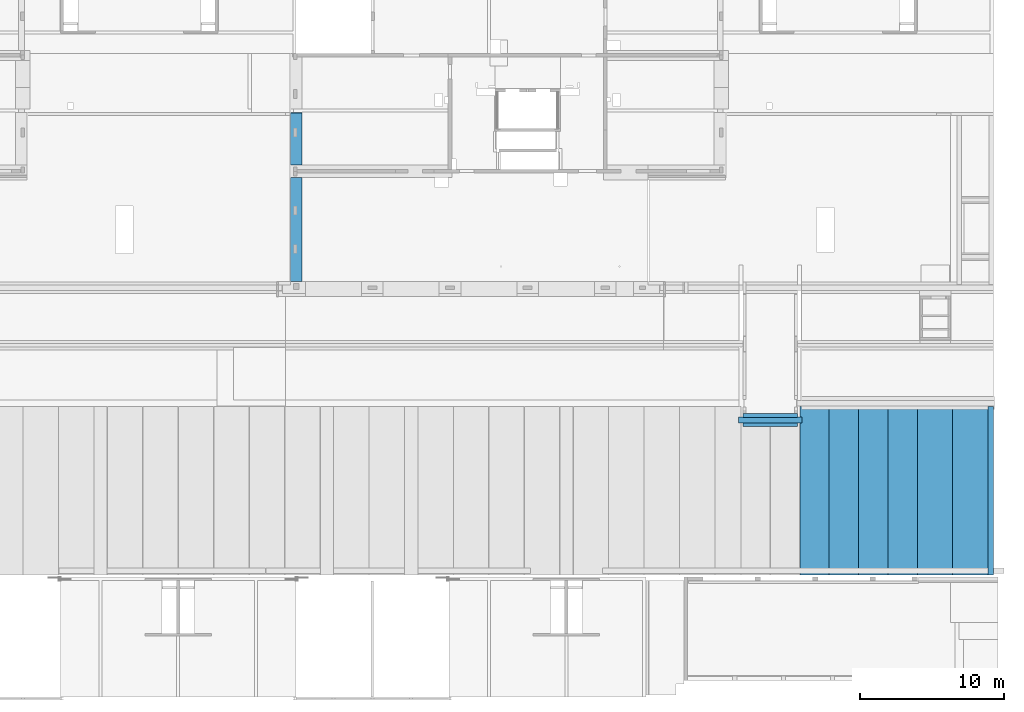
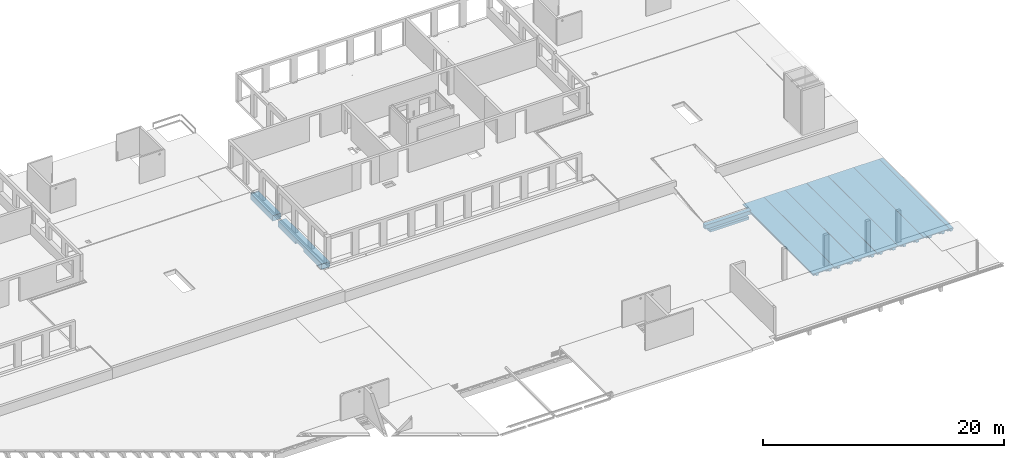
# One storey, part 31 of 36: 9 beams.
"""IFC2X3 building model written with IfcOpenShell, lengths in millimetres."""

from ifc_helpers import new_model, entity, si_unit, converted_unit, derived_unit, direction, frame, origin, place, context, subcontext, project, spatial, faceted_brep, source, transform, mapped, material, type_object, type_shapes, element, save


model = new_model("IFC2X3")

# Units and contexts
model_context = context("Model", 3, precision=0.01, world=origin(), true_north=direction((6.12303176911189e-17, 1.0)))
body_context = subcontext(model_context, "Body", "Model", "MODEL_VIEW")
ifc_project = project(units=[si_unit("LENGTHUNIT", "METRE", prefix="MILLI"), si_unit("AREAUNIT", "SQUARE_METRE"), si_unit("VOLUMEUNIT", "CUBIC_METRE"), converted_unit("PLANEANGLEUNIT", "DEGREE", entity("IfcRatioMeasure", 0.0174532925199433), si_unit("PLANEANGLEUNIT", "RADIAN"), dimensions=[0, 0, 0, 0, 0, 0, 0]), si_unit("MASSUNIT", "GRAM", prefix="KILO"), derived_unit("MASSDENSITYUNIT", [(si_unit("MASSUNIT", "GRAM", prefix="KILO"), 1), (si_unit("LENGTHUNIT", "METRE"), -3)]), si_unit("TIMEUNIT", "SECOND"), si_unit("FREQUENCYUNIT", "HERTZ"), si_unit("THERMODYNAMICTEMPERATUREUNIT", "DEGREE_CELSIUS"), derived_unit("THERMALTRANSMITTANCEUNIT", [(si_unit("MASSUNIT", "GRAM", prefix="KILO"), 1), (si_unit("THERMODYNAMICTEMPERATUREUNIT", "KELVIN"), -1), (si_unit("TIMEUNIT", "SECOND"), -3)]), derived_unit("VOLUMETRICFLOWRATEUNIT", [(si_unit("LENGTHUNIT", "METRE"), 3), (si_unit("TIMEUNIT", "SECOND"), -1)]), si_unit("ELECTRICCURRENTUNIT", "AMPERE"), si_unit("ELECTRICVOLTAGEUNIT", "VOLT"), si_unit("POWERUNIT", "WATT"), si_unit("FORCEUNIT", "NEWTON", prefix="KILO"), si_unit("ILLUMINANCEUNIT", "LUX"), si_unit("LUMINOUSFLUXUNIT", "LUMEN"), si_unit("LUMINOUSINTENSITYUNIT", "CANDELA"), derived_unit("USERDEFINED", [(si_unit("MASSUNIT", "GRAM", prefix="KILO"), -1), (si_unit("LENGTHUNIT", "METRE"), -2), (si_unit("TIMEUNIT", "SECOND"), 3), (si_unit("LUMINOUSFLUXUNIT", "LUMEN"), 1)]), derived_unit("LINEARVELOCITYUNIT", [(si_unit("LENGTHUNIT", "METRE"), 1), (si_unit("TIMEUNIT", "SECOND"), -1)]), si_unit("PRESSUREUNIT", "PASCAL"), derived_unit("USERDEFINED", [(si_unit("LENGTHUNIT", "METRE"), -2), (si_unit("MASSUNIT", "GRAM", prefix="KILO"), 1), (si_unit("TIMEUNIT", "SECOND"), -2)])], contexts=[model_context])

# Site, building, storey
site_placement = place(None, origin())
site = spatial("IfcSite", under=ifc_project, at=site_placement, Name="Default", CompositionType="ELEMENT")
building_placement = place(site_placement, origin())
building = spatial("IfcBuilding", under=site, at=building_placement, Name="niet gebruiken", CompositionType="ELEMENT")
storey_placement = place(building_placement, frame((0.0, 0.0, 12600.0)))
storey = spatial("IfcBuildingStorey", under=building, at=storey_placement, Name="04 vierde verdieping", CompositionType="ELEMENT", Elevation=12600.0)

# Beams
ifc_material_1 = material(Name="NLRS_f2_beton prefab")
beam_type_1 = type_object("IfcBeamType", Name="NLRS_28.11_SF_WPB_prefabbeton balk dubbele sponning_gen:900x660/250x410/250x410", PredefinedType="BEAM")
beam_1_placement = place(storey_placement, frame((106475.0, 19226.0, -2020.0)))
element("IfcBeam", 1, at=beam_1_placement, inside=storey, type_object=beam_type_1, material=ifc_material_1, Name="NLRS_28.11_SF_WPB_prefabbeton balk dubbele sponning_gen:900x660/250x410/250x410", ObjectType="NLRS_28.11_SF_WPB_prefabbeton balk dubbele sponning_gen:900x660/250x410/250x410", context=body_context, shape_type="Brep", body=[
    faceted_brep([(0.0, 250.0, 660.0), (0.0, 650.0, 660.0), (0.0, 650.0, 270.0), (0.0, 250.0, 270.0), (320.0, 0.0, 250.0), (320.0, 0.0, 0.0), (4080.0, 0.0, 0.0), (4080.0, 0.0, 250.0), (4400.0, 650.0, 660.0), (4400.0, 250.0, 660.0), (4400.0, 250.0, 270.0), (4400.0, 650.0, 270.0), (4080.0, 650.0, 660.0), (4080.0, 626.215262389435, 660.0), (4350.0, 626.215262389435, 660.0), (4350.0, 620.0, 660.0), (50.0, 620.0, 660.0), (50.0, 626.21526238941, 660.0), (320.0, 626.215262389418, 660.0), (320.0, 650.0, 660.0), (320.0, 650.0, 270.0), (320.0, 250.0, 270.0), (320.0, 250.0, 250.0), (4080.0, 250.0, 250.0), (4080.0, 250.0, 270.0), (320.0, 900.0, 0.0), (4080.0, 900.0, 0.0), (4080.0, 620.0, 659.224414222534), (4350.0, 620.0, 659.224414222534), (4080.0, 620.0, 659.236306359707), (4080.0, 620.0, 270.0), (4080.0, 620.095299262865, 256.133963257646), (320.0, 620.0, 256.133963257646), (320.0, 620.095299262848, 270.0), (320.0, 620.0, 659.224414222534), (50.0, 620.0, 659.224414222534), (320.0, 620.095299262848, 256.133963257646), (4080.0, 650.0, 259.865689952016), (320.0, 650.0, 259.865689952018), (4080.0, 650.0, 270.0), (320.0, 620.095299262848, 659.236306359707), (320.0, 900.0, 250.0), (320.0, 650.0, 250.0), (4080.0, 650.0, 250.0), (4080.0, 900.0, 250.0), (320.0, 620.0, 270.0), (4080.0, 620.0, 256.133963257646), (4080.0, 620.095299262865, 270.0)], [[[0, 1, 2, 3]], [[4, 5, 6, 7]], [[8, 9, 10, 11]], [[1, 0, 9, 8, 12, 13, 14, 15, 16, 17, 18, 19]], [[1, 19, 20, 2]], [[9, 0, 3, 21, 22, 23, 24, 10]], [[22, 4, 7, 23]], [[5, 25, 26, 6]], [[14, 13, 27, 28]], [[16, 15, 28, 29, 30, 31, 32, 33, 34, 35]], [[36, 31, 37, 38]], [[27, 13, 12, 39, 30]], [[18, 40, 33, 20, 19]], [[35, 17, 16]], [[34, 18, 17, 35]], [[41, 42, 43, 44]], [[25, 41, 44, 26]], [[14, 28, 15]], [[21, 45, 36, 38, 42, 41, 25, 5, 4, 22]], [[33, 21, 3, 2, 20]], [[12, 8, 11, 39]], [[30, 24, 23, 7, 6, 26, 44, 43, 37, 46]], [[24, 47, 39, 11, 10]], [[38, 37, 43, 42]]]),
])
ifc_material_2 = material(Name="NLRS_f2_beton ihwg")
beam_type_2 = type_object("IfcBeamType", Name="800x810", PredefinedType="BEAM", material=ifc_material_2)
shared_shape = source(origin(), body_context, "Body", "Brep", [
    faceted_brep([(0.0, 0.0, 0.0), (800.0, 0.0, 0.0), (800.0, 0.0, 560.0), (780.0, 0.0, 560.0), (0.0, 0.0, 560.0), (0.0, 0.0, 250.0), (0.0, 7250.0, 560.0), (0.0, 7250.0, 0.0), (0.0, 4300.0, 0.0), (0.0, 4300.0, 285.0), (0.0, 2950.0, 285.0), (0.0, 2950.0, 0.0), (797.0, 2950.0, 0.0), (797.0, 4300.0, 0.0), (800.0, 7250.0, 0.0), (800.0, 7250.0, 560.0), (780.0, 7250.0, 560.0), (797.0, 4300.0, 285.0), (797.0, 2950.0, 285.0)], [[[0, 1, 2, 3, 4, 5]], [[6, 7, 8, 9, 10, 11, 0, 5, 4]], [[1, 0, 11, 12, 13, 8, 7, 14]], [[14, 15, 2, 1]], [[15, 14, 7, 6, 16]], [[2, 15, 16, 6, 4, 3]], [[17, 18, 10, 9]], [[17, 9, 8, 13]], [[10, 18, 12, 11]], [[18, 17, 13, 12]]]),
    faceted_brep([(780.0, 11735.0, 660.0), (780.0, 11755.0, 660.0), (175.0, 11755.0, 660.0), (0.0, 11755.0, 660.0), (0.0, 11735.0, 660.0), (175.0, 11735.0, 660.0), (800.0, 11755.0, 0.0), (0.0, 11755.0, 0.0), (0.0, 11755.0, 490.0), (0.0, 11755.0, 560.0), (780.0, 11755.0, 630.0), (780.0, 11755.0, 560.0), (800.0, 11755.0, 560.0), (800.0, 8100.0, 0.0), (800.0, 8100.0, 560.0), (780.0, 8100.0, 560.0), (0.0, 8100.0, 560.0), (0.0, 8100.0, 0.0), (780.0, 11735.0, 560.0), (0.0, 11735.0, 560.0), (780.0, 11735.0, 630.0)], [[[0, 1, 2, 3, 4, 5]], [[6, 7, 8, 9, 3, 2, 1, 10, 11, 12]], [[13, 14, 15, 16, 17]], [[7, 6, 13, 17]], [[12, 11, 18, 19, 16, 15, 14]], [[1, 0, 20, 18, 11, 10]], [[14, 13, 6, 12]], [[19, 18, 20, 0, 5, 4]], [[17, 16, 19, 4, 3, 9, 8, 7]]]),
])
type_shapes(beam_type_2, [shared_shape])
beam_2_placement = place(storey_placement, frame((75325.0, 29306.0, -900.0)))
element("IfcBeam", 2, at=beam_2_placement, inside=storey, type_object=beam_type_2, material=ifc_material_2, Name="NLRS_28.11_SF_WPB_betonbalk ihwg recht_gen:800x810", ObjectType="800x810", context=body_context, shape_type="MappedRepresentation", body=[
    mapped(shared_shape, transform((0.0, 0.0, 0.0), scale=1.0)),
])
beam_type_3 = type_object("IfcBeamType", Name="NLRS_28.11_SF_WPB_tt-plaatvloer Holcon 102B_gen:TT-plaat, b=2460", PredefinedType="BEAM")
beam_3_placement = place(storey_placement, frame((121364.874996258, 8896.0, -1970.0), z_axis=(0.0, 0.0, 1.0), x_axis=(0.0, -1.0, 0.0)))
element("IfcBeam", 3, at=beam_3_placement, inside=storey, type_object=beam_type_3, material=ifc_material_1, Name="NLRS_28.11_SF_WPB_tt-plaatvloer Holcon 102B_gen:TT-plaat, b=2460", ObjectType="NLRS_28.11_SF_WPB_tt-plaatvloer Holcon 102B_gen:TT-plaat, b=2460", context=body_context, shape_type="Brep", body=[
    faceted_brep([(-11730.0, 0.0, 610.0), (-11730.0, 0.0, 529.999995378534), (0.0, 0.0, 529.999995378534), (0.0, 0.0, 610.0), (-520.0, 733.513622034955, 320.0), (-520.0, 493.468888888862, 320.0), (-520.0, 518.499999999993, 0.0), (-520.0, 708.482510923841, 0.0), (-11480.0, 501.291111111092, 220.0), (-11480.0, 725.691399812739, 220.0), (-11480.0, 708.482510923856, 0.0), (-11480.0, 518.499999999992, 0.0), (-11730.0, 744.000076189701, 454.059783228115), (-11730.0, 819.940288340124, 529.999995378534), (0.0, 819.940288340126, 529.999995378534), (0.0, 744.000076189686, 454.059783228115), (-11730.0, 1971.01904939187, 454.078756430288), (-11730.0, 2046.94028834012, 529.999995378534), (0.0, 2046.94028834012, 529.999995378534), (0.0, 1971.01904939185, 454.078756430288), (-11730.0, 1634.05971165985, 529.999995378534), (-11730.0, 1709.99992381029, 454.059783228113), (0.0, 1709.99992381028, 454.059783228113), (0.0, 1634.05971165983, 529.999995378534), (-11730.0, 2454.0, 610.0), (-11730.0, 2454.0, 529.999995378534), (-11730.0, 1952.70888888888, 220.0), (-11730.0, 1728.30860018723, 220.0), (-11730.0, 725.691399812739, 220.0), (-11730.0, 501.291111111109, 220.0), (-11730.0, 482.980950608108, 454.078756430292), (-11730.0, 407.059711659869, 529.999995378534), (0.0, 407.059711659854, 529.999995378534), (0.0, 482.980950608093, 454.078756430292), (0.0, 493.468888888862, 320.0), (0.0, 733.513622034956, 320.0), (0.0, 1720.48637796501, 320.0), (0.0, 1960.53111111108, 320.0), (0.0, 2454.0, 529.999995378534), (0.0, 2454.0, 610.0), (-520.0, 1935.49999999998, 0.0), (-520.0, 1745.51748907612, 0.0), (-11480.0, 1745.51748907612, 0.0), (-11480.0, 1935.49999999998, 0.0), (-520.0, 1960.5311111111, 320.0), (-11480.0, 1952.70888888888, 220.0), (-11480.0, 1728.30860018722, 220.0), (-520.0, 1720.486377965, 320.0)], [[[0, 1, 2, 3]], [[4, 5, 6, 7]], [[8, 9, 10, 11]], [[12, 13, 14, 15]], [[16, 17, 18, 19]], [[20, 21, 22, 23]], [[0, 24, 25, 17, 16, 26, 27, 21, 20, 13, 12, 28, 29, 30, 31, 1]], [[3, 2, 32, 33, 34, 35, 15, 14, 23, 22, 36, 37, 19, 18, 38, 39]], [[1, 31, 32, 2]], [[24, 0, 3, 39]], [[25, 24, 39, 38]], [[17, 25, 38, 18]], [[13, 20, 23, 14]], [[40, 41, 42, 43]], [[16, 19, 37, 44, 40, 43, 45, 26]], [[22, 21, 27, 46, 42, 41, 47, 36]], [[12, 15, 35, 4, 7, 10, 9, 28]], [[7, 6, 11, 10]], [[33, 30, 29, 8, 11, 6, 5, 34]], [[5, 4, 35, 34]], [[9, 8, 29, 28]], [[31, 30, 33, 32]], [[45, 46, 27, 26]], [[47, 44, 37, 36]], [[46, 45, 43, 42]], [[44, 47, 41, 40]]]),
])
beam_4_placement = place(storey_placement, frame((118907.200034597, 8896.0, -1970.0), z_axis=(0.0, 0.0, 1.0), x_axis=(0.0, -1.0, 0.0)))
element("IfcBeam", 4, at=beam_4_placement, inside=storey, type_object=beam_type_3, material=ifc_material_1, Name="NLRS_28.11_SF_WPB_tt-plaatvloer Holcon 102B_gen:TT-plaat, b=2460", ObjectType="NLRS_28.11_SF_WPB_tt-plaatvloer Holcon 102B_gen:TT-plaat, b=2460", context=body_context, shape_type="Brep", body=[
    faceted_brep([(-11730.0, 0.0, 610.0), (-11730.0, 0.0, 529.999995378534), (0.0, 0.0, 529.999995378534), (0.0, 0.0, 610.0), (-520.0, 733.513622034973, 320.0), (-520.0, 493.468888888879, 320.0), (-520.0, 518.500000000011, 0.0), (-520.0, 708.482510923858, 0.0), (-11480.0, 501.29111111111, 220.0), (-11480.0, 725.691399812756, 220.0), (-11480.0, 708.482510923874, 0.0), (-11480.0, 518.50000000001, 0.0), (-11730.0, 744.000076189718, 454.059783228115), (-11730.0, 819.940288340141, 529.999995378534), (0.0, 819.940288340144, 529.999995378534), (0.0, 744.000076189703, 454.059783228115), (-11730.0, 1971.01904939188, 454.078756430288), (-11730.0, 2046.94028834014, 529.999995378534), (0.0, 2046.94028834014, 529.999995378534), (0.0, 1971.01904939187, 454.078756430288), (-11730.0, 1634.05971165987, 529.999995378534), (-11730.0, 1709.99992381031, 454.059783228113), (0.0, 1709.99992381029, 454.059783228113), (0.0, 1634.05971165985, 529.999995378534), (-11730.0, 2454.0, 610.0), (-11730.0, 2454.0, 529.999995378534), (-11730.0, 1952.7088888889, 220.0), (-11730.0, 1728.30860018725, 220.0), (-11730.0, 725.691399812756, 220.0), (-11730.0, 501.291111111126, 220.0), (-11730.0, 482.980950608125, 454.078756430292), (-11730.0, 407.059711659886, 529.999995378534), (0.0, 407.059711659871, 529.999995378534), (0.0, 482.980950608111, 454.078756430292), (0.0, 493.46888888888, 320.0), (0.0, 733.513622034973, 320.0), (0.0, 1720.48637796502, 320.0), (0.0, 1960.5311111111, 320.0), (0.0, 2454.0, 529.999995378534), (0.0, 2454.0, 610.0), (-520.0, 1935.5, 0.0), (-520.0, 1745.51748907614, 0.0), (-11480.0, 1745.51748907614, 0.0), (-11480.0, 1935.5, 0.0), (-520.0, 1960.53111111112, 320.0), (-11480.0, 1952.7088888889, 220.0), (-11480.0, 1728.30860018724, 220.0), (-520.0, 1720.48637796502, 320.0)], [[[0, 1, 2, 3]], [[4, 5, 6, 7]], [[8, 9, 10, 11]], [[12, 13, 14, 15]], [[16, 17, 18, 19]], [[20, 21, 22, 23]], [[0, 24, 25, 17, 16, 26, 27, 21, 20, 13, 12, 28, 29, 30, 31, 1]], [[3, 2, 32, 33, 34, 35, 15, 14, 23, 22, 36, 37, 19, 18, 38, 39]], [[1, 31, 32, 2]], [[24, 0, 3, 39]], [[25, 24, 39, 38]], [[17, 25, 38, 18]], [[13, 20, 23, 14]], [[40, 41, 42, 43]], [[16, 19, 37, 44, 40, 43, 45, 26]], [[22, 21, 27, 46, 42, 41, 47, 36]], [[12, 15, 35, 4, 7, 10, 9, 28]], [[7, 6, 11, 10]], [[33, 30, 29, 8, 11, 6, 5, 34]], [[5, 4, 35, 34]], [[9, 8, 29, 28]], [[31, 30, 33, 32]], [[44, 47, 41, 40]], [[46, 45, 43, 42]], [[47, 44, 37, 36]], [[45, 46, 27, 26]]]),
])
beam_type_4 = type_object("IfcBeamType", Name="NLRS_28.11_SF_WPB_tt-plaatvloer Holcon 102B_gen:TT-plaat, b=2040", PredefinedType="BEAM")
beam_5_placement = place(storey_placement, frame((116865.178307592, 8896.0, -1970.0), z_axis=(0.0, 0.0, 1.0), x_axis=(0.0, -1.0, 0.0)))
element("IfcBeam", 5, at=beam_5_placement, inside=storey, type_object=beam_type_4, material=ifc_material_1, Name="NLRS_28.11_SF_WPB_tt-plaatvloer Holcon 102B_gen:TT-plaat, b=2040", ObjectType="NLRS_28.11_SF_WPB_tt-plaatvloer Holcon 102B_gen:TT-plaat, b=2040", context=body_context, shape_type="Brep", body=[
    faceted_brep([(-11730.0, 0.0, 610.0), (-11730.0, 0.0, 529.999995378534), (0.0, 0.0, 529.999995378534), (0.0, 0.0, 610.0), (-520.0, 523.513622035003, 320.0), (-520.0, 283.468888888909, 320.0), (-520.0, 308.500000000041, 0.0), (-520.0, 498.482510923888, 0.0), (-11480.0, 291.29111111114, 220.0), (-11480.0, 515.691399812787, 220.0), (-11480.0, 498.482510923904, 0.0), (-11480.0, 308.50000000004, 0.0), (-11730.0, 534.000076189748, 454.059783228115), (-11730.0, 609.940288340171, 529.999995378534), (0.0, 609.940288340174, 529.999995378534), (0.0, 534.000076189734, 454.059783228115), (-11730.0, 1761.01904939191, 454.078756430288), (-11730.0, 1836.94028834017, 529.999995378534), (0.0, 1836.94028834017, 529.999995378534), (0.0, 1761.0190493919, 454.078756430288), (-11730.0, 1424.0597116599, 529.999995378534), (-11730.0, 1499.99992381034, 454.059783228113), (0.0, 1499.99992381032, 454.059783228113), (0.0, 1424.05971165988, 529.999995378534), (-11730.0, 2034.0, 610.0), (-11730.0, 2034.0, 529.999995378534), (-11730.0, 1742.70888888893, 220.0), (-11730.0, 1518.30860018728, 220.0), (-11730.0, 515.691399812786, 220.0), (-11730.0, 291.291111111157, 220.0), (-11730.0, 272.980950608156, 454.078756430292), (-11730.0, 197.059711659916, 529.999995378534), (0.0, 197.059711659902, 529.999995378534), (0.0, 272.980950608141, 454.078756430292), (0.0, 283.46888888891, 320.0), (0.0, 523.513622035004, 320.0), (0.0, 1510.48637796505, 320.0), (0.0, 1750.53111111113, 320.0), (0.0, 2034.0, 529.999995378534), (0.0, 2034.0, 610.0), (-520.0, 1725.50000000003, 0.0), (-520.0, 1535.51748907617, 0.0), (-11480.0, 1535.51748907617, 0.0), (-11480.0, 1725.50000000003, 0.0), (-520.0, 1750.53111111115, 320.0), (-11480.0, 1742.70888888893, 220.0), (-11480.0, 1518.30860018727, 220.0), (-520.0, 1510.48637796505, 320.0)], [[[0, 1, 2, 3]], [[4, 5, 6, 7]], [[8, 9, 10, 11]], [[12, 13, 14, 15]], [[16, 17, 18, 19]], [[20, 21, 22, 23]], [[0, 24, 25, 17, 16, 26, 27, 21, 20, 13, 12, 28, 29, 30, 31, 1]], [[3, 2, 32, 33, 34, 35, 15, 14, 23, 22, 36, 37, 19, 18, 38, 39]], [[1, 31, 32, 2]], [[24, 0, 3, 39]], [[25, 24, 39, 38]], [[17, 25, 38, 18]], [[13, 20, 23, 14]], [[40, 41, 42, 43]], [[16, 19, 37, 44, 40, 43, 45, 26]], [[22, 21, 27, 46, 42, 41, 47, 36]], [[12, 15, 35, 4, 7, 10, 9, 28]], [[7, 6, 11, 10]], [[33, 30, 29, 8, 11, 6, 5, 34]], [[5, 4, 35, 34]], [[9, 8, 29, 28]], [[31, 30, 33, 32]], [[44, 47, 41, 40]], [[46, 45, 43, 42]], [[47, 44, 37, 36]], [[45, 46, 27, 26]]]),
])
beam_6_placement = place(storey_placement, frame((114818.0, 8896.0, -1970.0), z_axis=(0.0, 0.0, 1.0), x_axis=(0.0, -1.0, 0.0)))
element("IfcBeam", 6, at=beam_6_placement, inside=storey, type_object=beam_type_4, material=ifc_material_1, Name="NLRS_28.11_SF_WPB_tt-plaatvloer Holcon 102B_gen:TT-plaat, b=2040", ObjectType="NLRS_28.11_SF_WPB_tt-plaatvloer Holcon 102B_gen:TT-plaat, b=2040", context=body_context, shape_type="Brep", body=[
    faceted_brep([(-11730.0, 0.0, 610.0), (-11730.0, 0.0, 529.999995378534), (0.0, 0.0, 529.999995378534), (0.0, 0.0, 610.0), (-520.0, 523.513622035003, 320.0), (-520.0, 283.468888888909, 320.0), (-520.0, 308.500000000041, 0.0), (-520.0, 498.482510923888, 0.0), (-11480.0, 291.29111111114, 220.0), (-11480.0, 515.691399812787, 220.0), (-11480.0, 498.482510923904, 0.0), (-11480.0, 308.50000000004, 0.0), (-11730.0, 534.000076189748, 454.059783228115), (-11730.0, 609.940288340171, 529.999995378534), (0.0, 609.940288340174, 529.999995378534), (0.0, 534.000076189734, 454.059783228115), (-11730.0, 1761.01904939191, 454.078756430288), (-11730.0, 1836.94028834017, 529.999995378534), (0.0, 1836.94028834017, 529.999995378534), (0.0, 1761.0190493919, 454.078756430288), (-11730.0, 1424.0597116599, 529.999995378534), (-11730.0, 1499.99992381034, 454.059783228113), (0.0, 1499.99992381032, 454.059783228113), (0.0, 1424.05971165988, 529.999995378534), (-11730.0, 2034.0, 610.0), (-11730.0, 2034.0, 529.999995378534), (-11730.0, 1742.70888888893, 220.0), (-11730.0, 1518.30860018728, 220.0), (-11730.0, 515.691399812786, 220.0), (-11730.0, 291.291111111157, 220.0), (-11730.0, 272.980950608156, 454.078756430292), (-11730.0, 197.059711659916, 529.999995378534), (0.0, 197.059711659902, 529.999995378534), (0.0, 272.980950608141, 454.078756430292), (0.0, 283.46888888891, 320.0), (0.0, 523.513622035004, 320.0), (0.0, 1510.48637796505, 320.0), (0.0, 1750.53111111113, 320.0), (0.0, 2034.0, 529.999995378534), (0.0, 2034.0, 610.0), (-520.0, 1725.50000000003, 0.0), (-520.0, 1535.51748907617, 0.0), (-11480.0, 1535.51748907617, 0.0), (-11480.0, 1725.50000000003, 0.0), (-520.0, 1750.53111111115, 320.0), (-11480.0, 1742.70888888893, 220.0), (-11480.0, 1518.30860018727, 220.0), (-520.0, 1510.48637796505, 320.0)], [[[0, 1, 2, 3]], [[4, 5, 6, 7]], [[8, 9, 10, 11]], [[12, 13, 14, 15]], [[16, 17, 18, 19]], [[20, 21, 22, 23]], [[0, 24, 25, 17, 16, 26, 27, 21, 20, 13, 12, 28, 29, 30, 31, 1]], [[3, 2, 32, 33, 34, 35, 15, 14, 23, 22, 36, 37, 19, 18, 38, 39]], [[1, 31, 32, 2]], [[24, 0, 3, 39]], [[25, 24, 39, 38]], [[17, 25, 38, 18]], [[13, 20, 23, 14]], [[40, 41, 42, 43]], [[16, 19, 37, 44, 40, 43, 45, 26]], [[22, 21, 27, 46, 42, 41, 47, 36]], [[12, 15, 35, 4, 7, 10, 9, 28]], [[7, 6, 11, 10]], [[33, 30, 29, 8, 11, 6, 5, 34]], [[5, 4, 35, 34]], [[9, 8, 29, 28]], [[31, 30, 33, 32]], [[45, 46, 27, 26]], [[47, 44, 37, 36]], [[46, 45, 43, 42]], [[44, 47, 41, 40]]]),
])
beam_7_placement = place(storey_placement, frame((112773.0, 8896.0, -1970.0), z_axis=(0.0, 0.0, 1.0), x_axis=(0.0, -1.0, 0.0)))
element("IfcBeam", 7, at=beam_7_placement, inside=storey, type_object=beam_type_4, material=ifc_material_1, Name="NLRS_28.11_SF_WPB_tt-plaatvloer Holcon 102B_gen:TT-plaat, b=2040", ObjectType="NLRS_28.11_SF_WPB_tt-plaatvloer Holcon 102B_gen:TT-plaat, b=2040", context=body_context, shape_type="Brep", body=[
    faceted_brep([(-11730.0, 0.0, 610.0), (-11730.0, 0.0, 529.999995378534), (0.0, 0.0, 529.999995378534), (0.0, 0.0, 610.0), (-520.0, 523.513622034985, 320.0), (-520.0, 283.468888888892, 320.0), (-520.0, 308.500000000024, 0.0), (-520.0, 498.482510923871, 0.0), (-11480.0, 291.291111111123, 220.0), (-11480.0, 515.69139981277, 220.0), (-11480.0, 498.482510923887, 0.0), (-11480.0, 308.500000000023, 0.0), (-11730.0, 534.000076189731, 454.059783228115), (-11730.0, 609.940288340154, 529.999995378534), (0.0, 609.940288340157, 529.999995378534), (0.0, 534.000076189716, 454.059783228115), (-11730.0, 1761.0190493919, 454.078756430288), (-11730.0, 1836.94028834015, 529.999995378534), (0.0, 1836.94028834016, 529.999995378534), (0.0, 1761.01904939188, 454.078756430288), (-11730.0, 1424.05971165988, 529.999995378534), (-11730.0, 1499.99992381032, 454.059783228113), (0.0, 1499.99992381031, 454.059783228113), (0.0, 1424.05971165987, 529.999995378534), (-11730.0, 2034.0, 610.0), (-11730.0, 2034.0, 529.999995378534), (-11730.0, 1742.70888888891, 220.0), (-11730.0, 1518.30860018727, 220.0), (-11730.0, 515.691399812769, 220.0), (-11730.0, 291.29111111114, 220.0), (-11730.0, 272.980950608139, 454.078756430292), (-11730.0, 197.059711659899, 529.999995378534), (0.0, 197.059711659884, 529.999995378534), (0.0, 272.980950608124, 454.078756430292), (0.0, 283.468888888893, 320.0), (0.0, 523.513622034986, 320.0), (0.0, 1510.48637796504, 320.0), (0.0, 1750.53111111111, 320.0), (0.0, 2034.0, 529.999995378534), (0.0, 2034.0, 610.0), (-520.0, 1725.50000000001, 0.0), (-520.0, 1535.51748907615, 0.0), (-11480.0, 1535.51748907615, 0.0), (-11480.0, 1725.50000000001, 0.0), (-520.0, 1750.53111111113, 320.0), (-11480.0, 1742.70888888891, 220.0), (-11480.0, 1518.30860018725, 220.0), (-520.0, 1510.48637796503, 320.0)], [[[0, 1, 2, 3]], [[4, 5, 6, 7]], [[8, 9, 10, 11]], [[12, 13, 14, 15]], [[16, 17, 18, 19]], [[20, 21, 22, 23]], [[0, 24, 25, 17, 16, 26, 27, 21, 20, 13, 12, 28, 29, 30, 31, 1]], [[3, 2, 32, 33, 34, 35, 15, 14, 23, 22, 36, 37, 19, 18, 38, 39]], [[1, 31, 32, 2]], [[24, 0, 3, 39]], [[25, 24, 39, 38]], [[17, 25, 38, 18]], [[13, 20, 23, 14]], [[40, 41, 42, 43]], [[16, 19, 37, 44, 40, 43, 45, 26]], [[22, 21, 27, 46, 42, 41, 47, 36]], [[12, 15, 35, 4, 7, 10, 9, 28]], [[7, 6, 11, 10]], [[33, 30, 29, 8, 11, 6, 5, 34]], [[5, 4, 35, 34]], [[9, 8, 29, 28]], [[31, 30, 33, 32]], [[47, 44, 37, 36]], [[45, 46, 27, 26]], [[44, 47, 41, 40]], [[46, 45, 43, 42]]]),
])
beam_8_placement = place(storey_placement, frame((110727.022252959, 8896.0, -1970.0), z_axis=(0.0, 0.0, 1.0), x_axis=(0.0, -1.0, 0.0)))
element("IfcBeam", 8, at=beam_8_placement, inside=storey, type_object=beam_type_4, material=ifc_material_1, Name="NLRS_28.11_SF_WPB_tt-plaatvloer Holcon 102B_gen:TT-plaat, b=2040", ObjectType="NLRS_28.11_SF_WPB_tt-plaatvloer Holcon 102B_gen:TT-plaat, b=2040", context=body_context, shape_type="Brep", body=[
    faceted_brep([(-11730.0, 0.0, 610.0), (-11730.0, 0.0, 529.999995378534), (0.0, 0.0, 529.999995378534), (0.0, 0.0, 610.0), (-520.0, 523.513622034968, 320.0), (-520.0, 283.468888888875, 320.0), (-520.0, 308.500000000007, 0.0), (-520.0, 498.482510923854, 0.0), (-11480.0, 291.291111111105, 220.0), (-11480.0, 515.691399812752, 220.0), (-11480.0, 498.48251092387, 0.0), (-11480.0, 308.500000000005, 0.0), (-11730.0, 534.000076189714, 454.059783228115), (-11730.0, 609.940288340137, 529.999995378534), (0.0, 609.940288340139, 529.999995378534), (0.0, 534.000076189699, 454.059783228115), (-11730.0, 1761.01904939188, 454.078756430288), (-11730.0, 1836.94028834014, 529.999995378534), (0.0, 1836.94028834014, 529.999995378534), (0.0, 1761.01904939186, 454.078756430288), (-11730.0, 1424.05971165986, 529.999995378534), (-11730.0, 1499.9999238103, 454.059783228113), (0.0, 1499.99992381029, 454.059783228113), (0.0, 1424.05971165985, 529.999995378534), (-11730.0, 2034.0, 610.0), (-11730.0, 2034.0, 529.999995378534), (-11730.0, 1742.70888888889, 220.0), (-11730.0, 1518.30860018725, 220.0), (-11730.0, 515.691399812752, 220.0), (-11730.0, 291.291111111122, 220.0), (-11730.0, 272.980950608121, 454.078756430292), (-11730.0, 197.059711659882, 529.999995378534), (0.0, 197.059711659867, 529.999995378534), (0.0, 272.980950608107, 454.078756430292), (0.0, 283.468888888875, 320.0), (0.0, 523.513622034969, 320.0), (0.0, 1510.48637796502, 320.0), (0.0, 1750.53111111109, 320.0), (0.0, 2034.0, 529.999995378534), (0.0, 2034.0, 610.0), (-520.0, 1725.5, 0.0), (-520.0, 1535.51748907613, 0.0), (-11480.0, 1535.51748907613, 0.0), (-11480.0, 1725.5, 0.0), (-520.0, 1750.53111111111, 320.0), (-11480.0, 1742.7088888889, 220.0), (-11480.0, 1518.30860018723, 220.0), (-520.0, 1510.48637796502, 320.0)], [[[0, 1, 2, 3]], [[4, 5, 6, 7]], [[8, 9, 10, 11]], [[12, 13, 14, 15]], [[16, 17, 18, 19]], [[20, 21, 22, 23]], [[0, 24, 25, 17, 16, 26, 27, 21, 20, 13, 12, 28, 29, 30, 31, 1]], [[3, 2, 32, 33, 34, 35, 15, 14, 23, 22, 36, 37, 19, 18, 38, 39]], [[1, 31, 32, 2]], [[24, 0, 3, 39]], [[25, 24, 39, 38]], [[17, 25, 38, 18]], [[13, 20, 23, 14]], [[40, 41, 42, 43]], [[16, 19, 37, 44, 40, 43, 45, 26]], [[22, 21, 27, 46, 42, 41, 47, 36]], [[12, 15, 35, 4, 7, 10, 9, 28]], [[7, 6, 11, 10]], [[33, 30, 29, 8, 11, 6, 5, 34]], [[5, 4, 35, 34]], [[9, 8, 29, 28]], [[31, 30, 33, 32]], [[45, 46, 27, 26]], [[47, 44, 37, 36]], [[46, 45, 43, 42]], [[44, 47, 41, 40]]]),
])
beam_type_5 = type_object("IfcBeamType", Name="NLRS_28.11_SF_WPB_tt-plaatvloer Holcon 1 ligger_gen:TT-plaat 1 ligger b=400", PredefinedType="BEAM")
beam_9_placement = place(storey_placement, frame((123818.995004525, 8896.0, -1970.0), z_axis=(0.0, 0.0, 1.0), x_axis=(0.0, -1.0, 0.0)))
element("IfcBeam", 9, at=beam_9_placement, inside=storey, type_object=beam_type_5, material=ifc_material_1, Name="NLRS_28.11_SF_WPB_tt-plaatvloer Holcon 1 ligger_gen:TT-plaat 1 ligger b=400", ObjectType="NLRS_28.11_SF_WPB_tt-plaatvloer Holcon 1 ligger_gen:TT-plaat 1 ligger b=400", context=body_context, shape_type="Brep", body=[
    faceted_brep([(-11730.0, 6.68605045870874, 610.0), (-11730.0, 380.68605045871, 610.0), (-11730.0, 380.68605045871, 529.999995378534), (-11730.0, 387.371567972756, 529.999995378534), (-11730.0, 311.450329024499, 454.078756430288), (-11730.0, 299.715285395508, 220.0), (-11730.0, 87.6743045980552, 220.0), (-11730.0, 75.9402121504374, 454.059783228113), (-11730.0, 0.0, 529.999995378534), (-11730.0, 6.68605045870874, 529.999995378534), (0.0, 75.94021215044, 454.059783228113), (-11530.0, 87.6743045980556, 220.0), (-11530.0, 98.70353953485, 0.0), (-520.0, 98.7035395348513, 0.0), (-520.0, 82.6610159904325, 320.0), (0.0, 82.6610159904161, 320.0), (-11530.0, 299.715285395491, 220.0), (0.0, 311.450329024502, 454.078756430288), (0.0, 304.728574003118, 320.0), (-520.0, 304.728574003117, 320.0), (-520.0, 288.686050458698, 0.0), (-11530.0, 288.686050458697, 0.0), (0.0, 6.68605045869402, 610.0), (0.0, 6.68605045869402, 529.999995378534), (0.0, 0.0, 529.999995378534), (0.0, 387.371567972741, 529.999995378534), (0.0, 380.686050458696, 529.999995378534), (0.0, 380.686050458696, 610.0)], [[[0, 1, 2, 3, 4, 5, 6, 7, 8, 9]], [[10, 7, 6, 11, 12, 13, 14, 15]], [[16, 11, 6, 5]], [[4, 17, 18, 19, 20, 21, 16, 5]], [[22, 23, 24, 10, 15, 18, 17, 25, 26, 27]], [[1, 0, 22, 27]], [[2, 1, 27, 26]], [[3, 2, 26, 25]], [[9, 8, 24, 23]], [[0, 9, 23, 22]], [[20, 13, 12, 21]], [[14, 19, 18, 15]], [[19, 14, 13, 20]], [[11, 16, 21, 12]], [[4, 3, 25, 17]], [[8, 7, 10, 24]]]),
])

save(model, "model.ifc")
